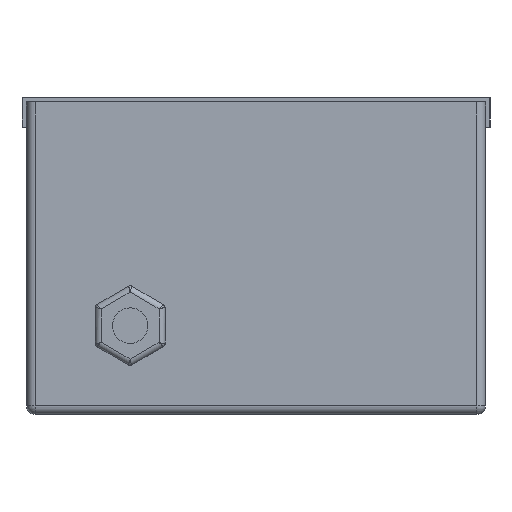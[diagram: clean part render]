
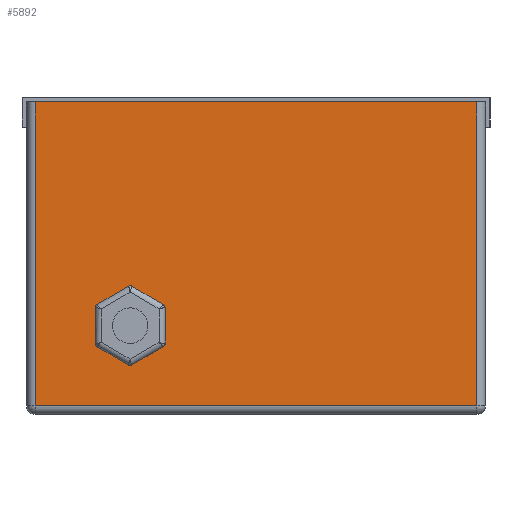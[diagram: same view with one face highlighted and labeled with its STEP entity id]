
A CAD part, left-side view. The second image highlights one B-rep face of the part: STEP entity #5892.
In plain terms, the highlighted planar face has unit normal (-1, 0, 0).
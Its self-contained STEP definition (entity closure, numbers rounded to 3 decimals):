
#84=CARTESIAN_POINT('',(-135.0,42.5,40.0));
#85=VERTEX_POINT('',#84);
#86=CARTESIAN_POINT('',(-135.0,42.5,30.0));
#87=DIRECTION('',(1.0,0.0,0.0));
#88=DIRECTION('',(0.0,0.0,-1.0));
#89=AXIS2_PLACEMENT_3D('',#86,#87,#88);
#90=CIRCLE('',#89,10.0);
#91=EDGE_CURVE('',#85,#85,#90,.T.);
#5074=CARTESIAN_POINT('',(-135.0,74.5,105.5));
#5075=VERTEX_POINT('',#5074);
#5083=CARTESIAN_POINT('',(-135.0,-74.5,105.5));
#5084=VERTEX_POINT('',#5083);
#5085=CARTESIAN_POINT('',(-135.0,-74.5,105.5));
#5086=DIRECTION('',(0.0,1.0,0.0));
#5087=VECTOR('',#5086,149.0);
#5088=LINE('',#5085,#5087);
#5089=EDGE_CURVE('',#5084,#5075,#5088,.T.);
#5533=CARTESIAN_POINT('',(-135.0,-74.5,3.));
#5534=VERTEX_POINT('',#5533);
#5542=CARTESIAN_POINT('',(-135.0,74.5,3.));
#5543=VERTEX_POINT('',#5542);
#5544=CARTESIAN_POINT('',(-135.0,-74.5,3.));
#5545=DIRECTION('',(0.0,1.0,0.0));
#5546=VECTOR('',#5545,149.0);
#5547=LINE('',#5544,#5546);
#5548=EDGE_CURVE('',#5534,#5543,#5547,.T.);
#5839=CARTESIAN_POINT('',(-135.0,-74.5,105.5));
#5840=DIRECTION('',(0.0,0.0,-1.0));
#5841=VECTOR('',#5840,102.5);
#5842=LINE('',#5839,#5841);
#5843=EDGE_CURVE('',#5084,#5534,#5842,.T.);
#5866=CARTESIAN_POINT('',(-135.0,74.5,3.));
#5867=DIRECTION('',(0.0,0.0,1.0));
#5868=VECTOR('',#5867,102.5);
#5869=LINE('',#5866,#5868);
#5870=EDGE_CURVE('',#5543,#5075,#5869,.T.);
#5878=CARTESIAN_POINT('',(-135.0,-77.5,0.0));
#5879=DIRECTION('',(-1.0,0.0,0.0));
#5880=DIRECTION('',(0.0,0.0,1.0));
#5881=AXIS2_PLACEMENT_3D('',#5878,#5879,#5880);
#5882=PLANE('',#5881);
#5883=ORIENTED_EDGE('',*,*,#5548,.F.);
#5884=ORIENTED_EDGE('',*,*,#5843,.F.);
#5885=ORIENTED_EDGE('',*,*,#5089,.T.);
#5886=ORIENTED_EDGE('',*,*,#5870,.F.);
#5887=EDGE_LOOP('',(#5883,#5884,#5885,#5886));
#5888=FACE_OUTER_BOUND('',#5887,.T.);
#5889=ORIENTED_EDGE('',*,*,#91,.T.);
#5890=EDGE_LOOP('',(#5889));
#5891=FACE_BOUND('',#5890,.T.);
#5892=ADVANCED_FACE('',(#5888,#5891),#5882,.T.);
